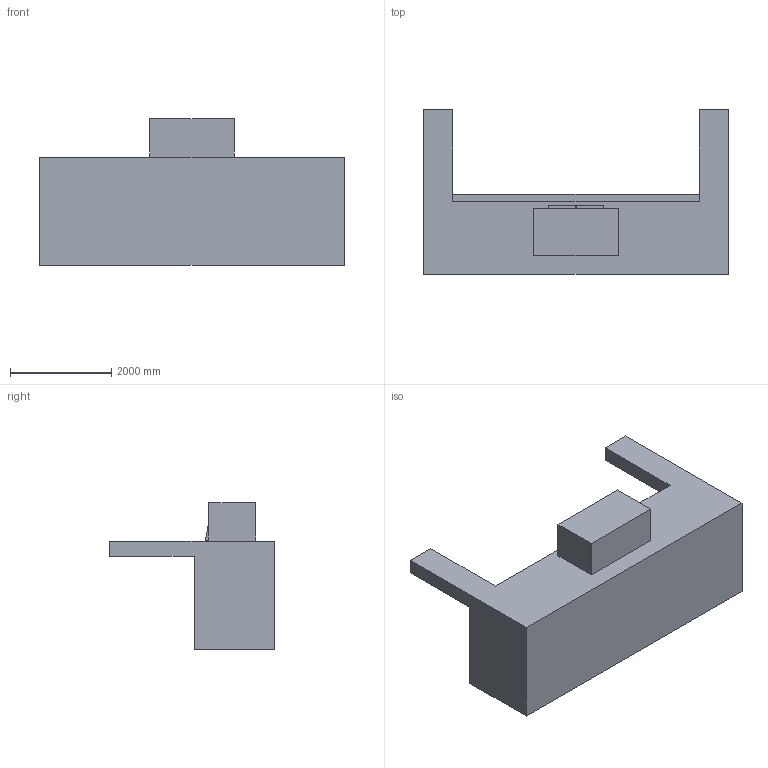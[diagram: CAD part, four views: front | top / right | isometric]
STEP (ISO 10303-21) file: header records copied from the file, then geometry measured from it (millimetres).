
FILE_DESCRIPTION(/* description */ ('Alibre Inc.'),/* implementation_level */ '2;1');
FILE_NAME(/* name */ 'export0',/* time_stamp */ '2007-11-15T15:09:45+01:00',/* author */ (''),/* organization */ (''),/* preprocessor_version */ 'ST-DEVELOPER v10',/* originating_system */ 'Alibre',/* authorisation */ '');
FILE_SCHEMA (('ALIBRE_SCHEMA','CONFIG_CONTROL_DESIGN'));
Length unit declared in the file: centimetre
Products named in the file (6): ID_1; ID_2; ID_3; ID_4
Bounding box: 6027.73 x 3253.43 x 2901.8 mm (x, y, z)
Volume: 21575894604.8 mm3; surface area: 65159228.8 mm2
Topology: 4 solids, 4 shells, 50 faces, 118 edges, 78 vertices
Faces by surface type: plane 50
Entity records: 4871 total; most frequent: CARTESIAN_POINT 490, DIRECTION 348, ORIENTED_EDGE 236, VECTOR 224, INTEGERVALUEPAIR 206, CONSTRAINTPAIRUV 173, LINE 169, REFERENCEDEPENDENTUV 153
